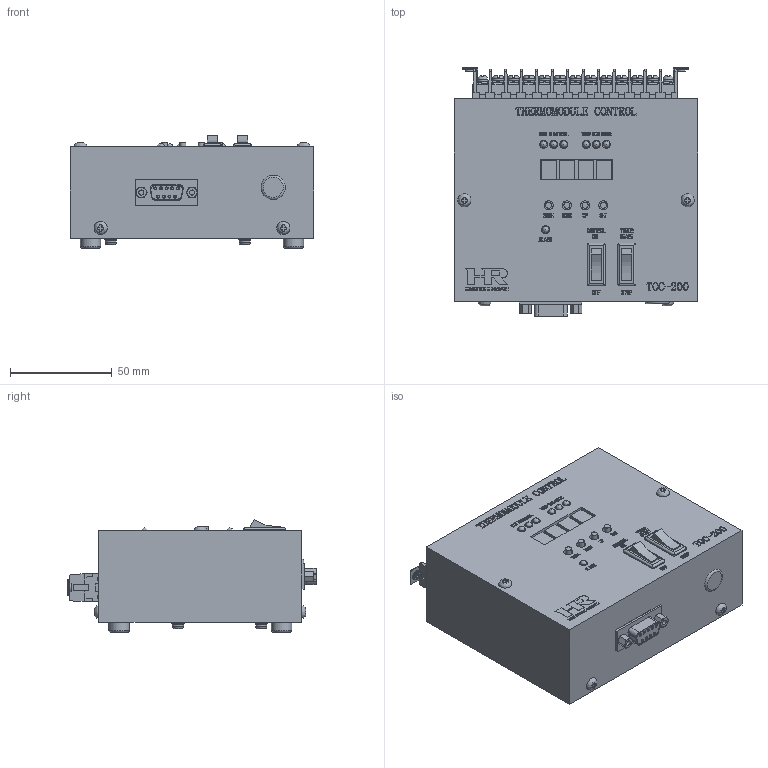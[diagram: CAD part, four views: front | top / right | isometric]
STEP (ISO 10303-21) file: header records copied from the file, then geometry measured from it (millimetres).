
FILE_DESCRIPTION(('STEP AP214'),'1');
FILE_NAME('TOC-200CL.stp','2026-03-16T23:57:18',(' '),(' '),'Spatial InterOp 3D',' ',' ');
FILE_SCHEMA(('AUTOMOTIVE_DESIGN { 1 0 10303 214 1 1 1 1 }'));
Length unit declared in the file: metre
Products named in the file (34): TOC-200CL; 筐体; 印刷文字(操作面)(C); LED(緑); LED(赤); LED(黄色); 数字; ボタン; スイッチ; 印刷文字(背面); ドレスネジ; ゴム脚; ゴム脚固定用ネジ; TOC-200端子台; Component1; Component2; Component3; Component4; Component5; Component6; Component7; Component8; Component9; Component10; Component11; Component12; ネジ止; ネジ止2; 端子台ネジ; 会社ロゴ; ブッシュ; RS232C(メス); M3ネジ; M3 P=4
Assembly tree (36 placements, depth 3):
  TOC-200CL
    筐体
    印刷文字(操作面)(C)
    LED(緑)
    LED(赤)
    LED(黄色)
    数字
    ボタン
    スイッチ
    印刷文字(背面)
    ドレスネジ
    ゴム脚
    ゴム脚固定用ネジ
    TOC-200端子台
      Component1
      Component2
      Component3
      Component4
      Component5
      Component6
      Component7
      Component8
      Component9
      Component10
      Component11
      Component12
    ネジ止
    ネジ止2
    端子台ネジ
    会社ロゴ
    ブッシュ
    RS232C(メス)
    M3ネジ
      M3 P=4  x4
Bounding box: 120 x 122.4 x 55.5 mm (x, y, z)
Volume: 551183.2 mm3; surface area: 71568.5 mm2
Topology: 194 solids, 194 shells, 5610 faces, 15252 edges, 9859 vertices
Faces by surface type: plane 4136, cylinder 809, bspline 512, cone 52, sphere 51, torus 50
Full cylindrical faces by diameter (mm): 1 x9, 2.4 x2, 2.46 x22, 2.5 x2, 2.6 x11, 3 x22, 3.2 x15, 4 x11, 4.5 x4, 5 x2, 5.5 x27, 6 x4, 10 x4, 12 x1
Entity records: 223533 total; most frequent: CARTESIAN_POINT 41288, ORIENTED_EDGE 29354, DIRECTION 25724, EDGE_CURVE 14677, LINE 11112, VECTOR 11112, VERTEX_POINT 9650, AXIS2_PLACEMENT_3D 7306
